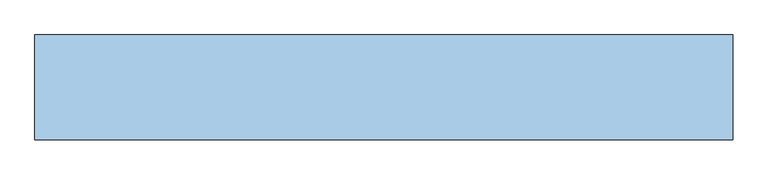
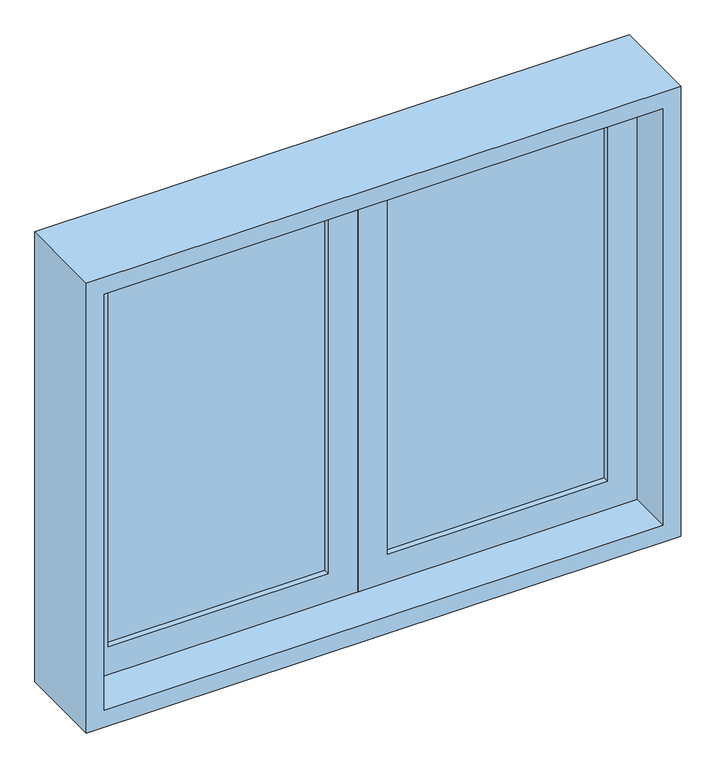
"""IFC4 building model written with IfcOpenShell, lengths in millimetres: window geometry, Janela Abrir- 2 folhas-FLA.GLEOKrfa : 60x50 h=1.60."""

from ifc_helpers import new_model, si_unit, frame, origin, place, context, project, spatial, polyline, outline, extrude, source, transform, mapped, element, save


def window_158f51de(model_context):
    return source(origin(), model_context, "Body", "SweptSolid", [
        extrude(outline(polyline([(1800.0, -500.0), (1000.0, -500.0), (1000.0, 500.0), (1800.0, 500.0), (1800.0, -500.0)]), holes=[polyline([(1030.0, -470.0), (1770.0, -470.0), (1770.0, 470.0), (1030.0, 470.0), (1030.0, -470.0)])]), frame((0.0, -75.0, 0.0), z_axis=(0.0, 1.0, 0.0), x_axis=(0.0, 0.0, 1.0)), (0.0, 0.0, 1.0), 150.0),
        extrude(outline(polyline([(-50.0, 20.0), (-50.0, 10.0), (-420.0, 10.0), (-420.0, 20.0), (-50.0, 20.0)])), frame((0.0, 0.0, 1080.0), z_axis=(0.0, 0.0, 1.0), x_axis=(1.0, 0.0, 0.0)), (0.0, 0.0, 1.0), 640.0),
        extrude(outline(polyline([(420.0, 20.0), (420.0, 10.0), (50.0, 10.0), (50.0, 20.0), (420.0, 20.0)])), frame((0.0, 0.0, 1080.0), z_axis=(0.0, 0.0, 1.0), x_axis=(1.0, 0.0, 0.0)), (0.0, 0.0, 1.0), 640.0),
        extrude(outline(polyline([(1770.0, 0.0), (1030.0, 0.0), (1030.0, 470.0), (1770.0, 470.0), (1770.0, 0.0)]), holes=[polyline([(1720.0, 50.0), (1720.0, 420.0), (1080.0, 420.0), (1080.0, 50.0), (1720.0, 50.0)])]), frame((0.0, 0.0, 0.0), z_axis=(0.0, 1.0, 0.0), x_axis=(0.0, 0.0, 1.0)), (0.0, 0.0, 1.0), 30.0),
        extrude(outline(polyline([(1770.0, -470.0), (1030.0, -470.0), (1030.0, 0.0), (1770.0, 0.0), (1770.0, -470.0)]), holes=[polyline([(1720.0, -420.0), (1720.0, -50.0), (1080.0, -50.0), (1080.0, -420.0), (1720.0, -420.0)])]), frame((0.0, 0.0, 0.0), z_axis=(0.0, 1.0, 0.0), x_axis=(0.0, 0.0, 1.0)), (0.0, 0.0, 1.0), 30.0),
    ])


if __name__ == "__main__":
    model = new_model("IFC4")
    model_context = context("Model", 3, world=origin())
    ifc_project = project(units=[si_unit("LENGTHUNIT", "METRE", prefix="MILLI")], contexts=[model_context])
    site = spatial("IfcSite", under=ifc_project)
    building = spatial("IfcBuilding", under=site)
    placement = place(None, origin())
    window_shape = window_158f51de(model_context)
    element("IfcWindow", 1, ObjectType="Janela Abrir- 2 folhas-FLA.GLEOKrfa : 60x50 h=1.60", at=placement, inside=building, context=model_context, shape_type="MappedRepresentation", body=[
        mapped(window_shape, transform((0.0, 0.0, 0.0), x_axis=(1.0, 0.0, 0.0), y_axis=(0.0, 1.0, 0.0), z_axis=(0.0, 0.0, 1.0))),
    ])
    save(model, "model.ifc")
